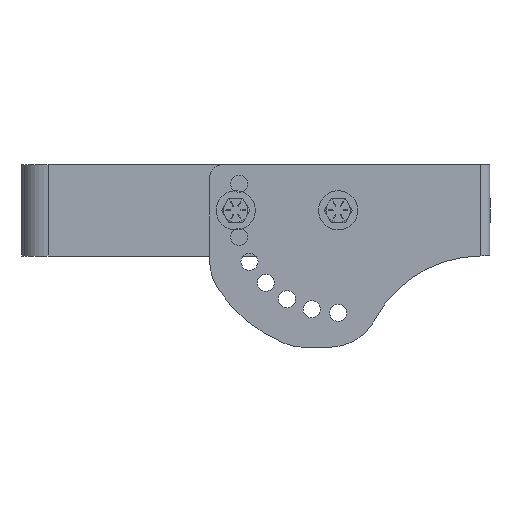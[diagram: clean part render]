
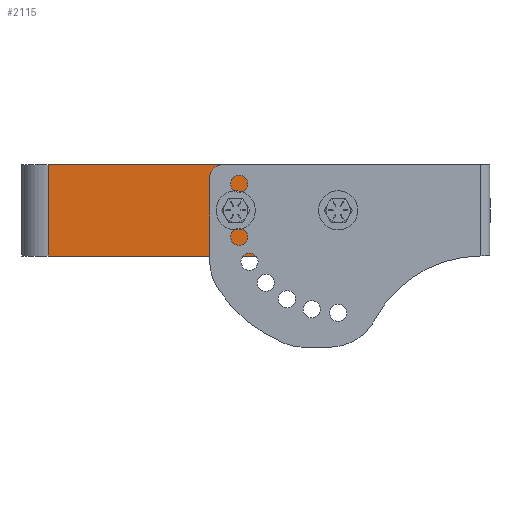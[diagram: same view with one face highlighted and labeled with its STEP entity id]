
A CAD part, left-side view. The second image highlights one B-rep face of the part: STEP entity #2115.
In plain terms, the highlighted planar face has unit normal (-1, 0, 0).
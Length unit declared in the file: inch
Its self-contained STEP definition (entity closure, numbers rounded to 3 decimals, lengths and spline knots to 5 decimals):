
#237 = EDGE_CURVE ( 'NONE', #7779, #6277, #8001, .T. ) ;
#777 = CARTESIAN_POINT ( 'NONE',  ( 0., 8.4925, 1.75 ) ) ;
#927 = CIRCLE ( 'NONE', #4019, 0.5875 ) ;
#1032 = FACE_BOUND ( 'NONE', #9180, .T. ) ;
#1356 = EDGE_CURVE ( 'NONE', #10098, #7779, #11922, .T. ) ;
#1561 = DIRECTION ( 'NONE',  ( 0., -1., 0. ) ) ;
#1579 = CIRCLE ( 'NONE', #2698, 0.5875 ) ;
#1721 = DIRECTION ( 'NONE',  ( 0., 0., -1. ) ) ;
#1776 = CARTESIAN_POINT ( 'NONE',  ( 0., 0., 3.5 ) ) ;
#1813 = DIRECTION ( 'NONE',  ( -1., 0., 0. ) ) ;
#1872 = CARTESIAN_POINT ( 'NONE',  ( 0., 15.6875, 3.5 ) ) ;
#2115 = ADVANCED_FACE ( 'NONE', ( #1032, #5957, #8573 ), #2665, .F. ) ;
#2265 = VERTEX_POINT ( 'NONE', #8486 ) ;
#2642 = CARTESIAN_POINT ( 'NONE',  ( 0., 8.4925, 2.3375 ) ) ;
#2665 = PLANE ( 'NONE',  #10110 ) ;
#2698 = AXIS2_PLACEMENT_3D ( 'NONE', #777, #7261, #1721 ) ;
#2708 = DIRECTION ( 'NONE',  ( 0., 0., -1. ) ) ;
#2788 = VERTEX_POINT ( 'NONE', #1872 ) ;
#2829 = ORIENTED_EDGE ( 'NONE', *, *, #6070, .T. ) ;
#2983 = DIRECTION ( 'NONE',  ( -1., 0., 0. ) ) ;
#3059 = VECTOR ( 'NONE', #11628, 39.37008 ) ;
#3174 = ORIENTED_EDGE ( 'NONE', *, *, #6373, .F. ) ;
#3268 = DIRECTION ( 'NONE',  ( -1., 0., 0. ) ) ;
#3314 = CARTESIAN_POINT ( 'NONE',  ( 0., 15.6875, 3.5 ) ) ;
#3425 = CIRCLE ( 'NONE', #9074, 0.5875 ) ;
#3477 = CARTESIAN_POINT ( 'NONE',  ( 0., 1., 0. ) ) ;
#3519 = EDGE_CURVE ( 'NONE', #2788, #6277, #9540, .T. ) ;
#3611 = EDGE_CURVE ( 'NONE', #6140, #7154, #1579, .T. ) ;
#3861 = EDGE_LOOP ( 'NONE', ( #8465, #11092, #4270, #2829 ) ) ;
#4019 = AXIS2_PLACEMENT_3D ( 'NONE', #7350, #1813, #8284 ) ;
#4258 = DIRECTION ( 'NONE',  ( 0., 0., -1. ) ) ;
#4270 = ORIENTED_EDGE ( 'NONE', *, *, #3519, .F. ) ;
#4453 = LINE ( 'NONE', #3314, #9104 ) ;
#4576 = EDGE_CURVE ( 'NONE', #8956, #2265, #8052, .T. ) ;
#4615 = VECTOR ( 'NONE', #1561, 39.37008 ) ;
#4699 = ORIENTED_EDGE ( 'NONE', *, *, #9633, .F. ) ;
#5957 = FACE_BOUND ( 'NONE', #11001, .T. ) ;
#6070 = EDGE_CURVE ( 'NONE', #2788, #10098, #4453, .T. ) ;
#6086 = CARTESIAN_POINT ( 'NONE',  ( 0., 0., 3.5 ) ) ;
#6140 = VERTEX_POINT ( 'NONE', #2642 ) ;
#6277 = VERTEX_POINT ( 'NONE', #9307 ) ;
#6373 = EDGE_CURVE ( 'NONE', #7154, #6140, #3425, .T. ) ;
#6797 = DIRECTION ( 'NONE',  ( 0., -1., 0. ) ) ;
#7154 = VERTEX_POINT ( 'NONE', #7799 ) ;
#7261 = DIRECTION ( 'NONE',  ( -1., 0., 0. ) ) ;
#7350 = CARTESIAN_POINT ( 'NONE',  ( 0., 4.5625, 1.75 ) ) ;
#7628 = ORIENTED_EDGE ( 'NONE', *, *, #3611, .F. ) ;
#7779 = VERTEX_POINT ( 'NONE', #3477 ) ;
#7799 = CARTESIAN_POINT ( 'NONE',  ( 0., 8.4925, 1.1625 ) ) ;
#8001 = LINE ( 'NONE', #9828, #3059 ) ;
#8030 = AXIS2_PLACEMENT_3D ( 'NONE', #8838, #3268, #9760 ) ;
#8052 = CIRCLE ( 'NONE', #8030, 0.5875 ) ;
#8242 = DIRECTION ( 'NONE',  ( 1., 0., 0. ) ) ;
#8281 = ORIENTED_EDGE ( 'NONE', *, *, #4576, .F. ) ;
#8284 = DIRECTION ( 'NONE',  ( 0., 0., -1. ) ) ;
#8465 = ORIENTED_EDGE ( 'NONE', *, *, #1356, .T. ) ;
#8486 = CARTESIAN_POINT ( 'NONE',  ( 0., 4.5625, 1.1625 ) ) ;
#8551 = CARTESIAN_POINT ( 'NONE',  ( 0., 8.4925, 1.75 ) ) ;
#8573 = FACE_OUTER_BOUND ( 'NONE', #3861, .T. ) ;
#8838 = CARTESIAN_POINT ( 'NONE',  ( 0., 4.5625, 1.75 ) ) ;
#8928 = CARTESIAN_POINT ( 'NONE',  ( 0., 4.5625, 2.3375 ) ) ;
#8956 = VERTEX_POINT ( 'NONE', #8928 ) ;
#9074 = AXIS2_PLACEMENT_3D ( 'NONE', #8551, #2983, #9468 ) ;
#9104 = VECTOR ( 'NONE', #4258, 39.37008 ) ;
#9180 = EDGE_LOOP ( 'NONE', ( #3174, #7628 ) ) ;
#9307 = CARTESIAN_POINT ( 'NONE',  ( 0., 1., 3.5 ) ) ;
#9449 = VECTOR ( 'NONE', #6797, 39.37008 ) ;
#9468 = DIRECTION ( 'NONE',  ( 0., 0., -1. ) ) ;
#9540 = LINE ( 'NONE', #6086, #4615 ) ;
#9633 = EDGE_CURVE ( 'NONE', #2265, #8956, #927, .T. ) ;
#9699 = CARTESIAN_POINT ( 'NONE',  ( 0., 15.6875, 0. ) ) ;
#9760 = DIRECTION ( 'NONE',  ( 0., 0., -1. ) ) ;
#9828 = CARTESIAN_POINT ( 'NONE',  ( 0., 1., 3.5 ) ) ;
#9834 = CARTESIAN_POINT ( 'NONE',  ( 0., 0., 0. ) ) ;
#10098 = VERTEX_POINT ( 'NONE', #9699 ) ;
#10110 = AXIS2_PLACEMENT_3D ( 'NONE', #1776, #8242, #2708 ) ;
#11001 = EDGE_LOOP ( 'NONE', ( #4699, #8281 ) ) ;
#11092 = ORIENTED_EDGE ( 'NONE', *, *, #237, .T. ) ;
#11628 = DIRECTION ( 'NONE',  ( 0., 0., 1. ) ) ;
#11922 = LINE ( 'NONE', #9834, #9449 ) ;
